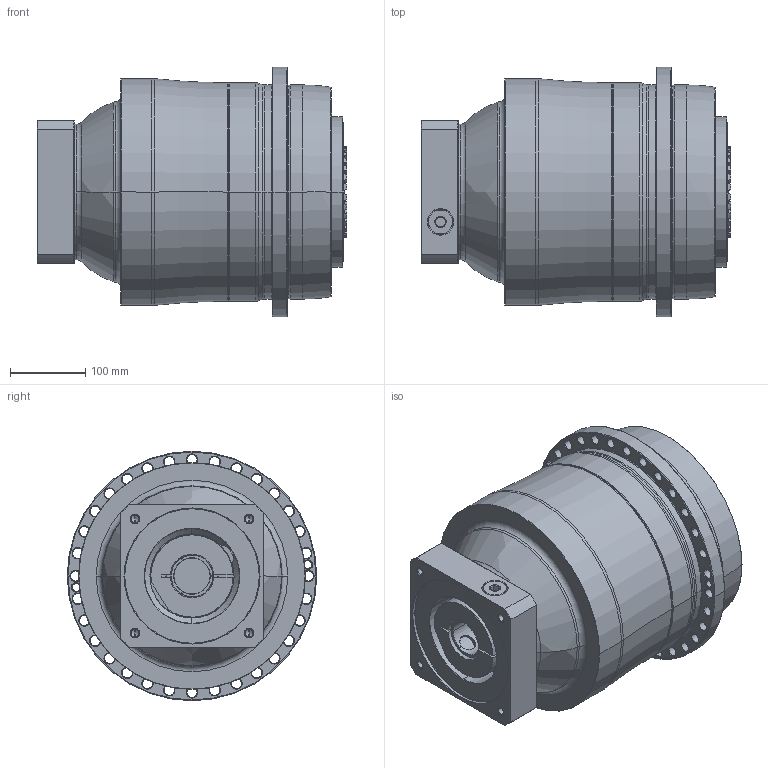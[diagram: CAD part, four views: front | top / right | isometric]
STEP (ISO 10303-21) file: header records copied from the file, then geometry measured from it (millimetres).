
FILE_DESCRIPTION((''),'2;1');
FILE_NAME('APC285_3ST_48-P0409B10201_ASM','2018-07-05T',('d01226'),(''),'PRO/ENGINEER BY PARAMETRIC TECHNOLOGY CORPORATION, 2008410','PRO/ENGINEER BY PARAMETRIC TECHNOLOGY CORPORATION, 2008410','');
FILE_SCHEMA(('CONFIG_CONTROL_DESIGN'));
Length unit declared in the file: millimetre
Products named in the file (9): P0278801003; P03598G0103; P1366800401; P0503B00016; P0912604001; P1211800001; P0409B10201; 21711426021; APC285_3ST_48-P0409B10201_ASM
Assembly tree (8 placements, depth 2):
  APC285_3ST_48-P0409B10201_ASM
    P0278801003
    P03598G0103
    P1366800401
    P0503B00016
    P0912604001
    P1211800001
    P0409B10201
    21711426021
Bounding box: 411.6 x 332 x 332 mm (x, y, z)
Volume: 23064535.1 mm3; surface area: 1081310.3 mm2
Topology: 9 solids, 21 shells, 805 faces, 1983 edges, 1215 vertices
Faces by surface type: cone 286, cylinder 229, plane 144, torus 130, bspline 16
Entity records: 29600 total; most frequent: CARTESIAN_POINT 10124, DIRECTION 4339, ORIENTED_EDGE 3880, EDGE_CURVE 1965, AXIS2_PLACEMENT_3D 1904, VERTEX_POINT 1215, CIRCLE 1086, EDGE_LOOP 924
